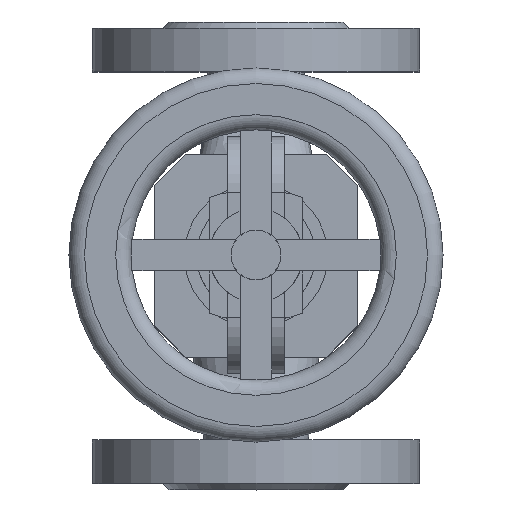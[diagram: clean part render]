
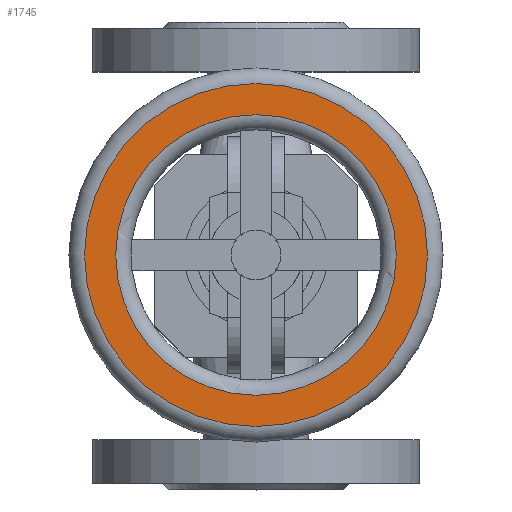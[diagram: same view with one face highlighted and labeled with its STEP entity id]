
A CAD part, top view. The second image highlights one B-rep face of the part: STEP entity #1745.
In plain terms, the highlighted planar face has unit normal (0, 0, 1).
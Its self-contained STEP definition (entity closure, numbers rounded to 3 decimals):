
#1745=ADVANCED_FACE('',(#11159,#11161),#11163,.T.);
#11159=FACE_BOUND('',#11160,.T.);
#11160=EDGE_LOOP('',(#12155));
#11161=FACE_BOUND('',#11162,.T.);
#11162=EDGE_LOOP('',(#12156));
#11163=PLANE('',#11164);
#11164=AXIS2_PLACEMENT_3D('',#11165,#11166,#11167);
#11165=CARTESIAN_POINT('',(0.,0.,189.));
#11166=DIRECTION('',(0.,0.,1.));
#11167=DIRECTION('',(0.,1.,0.));
#12155=ORIENTED_EDGE('',*,*,#12644,.F.);
#12156=ORIENTED_EDGE('',*,*,#12618,.T.);
#12618=EDGE_CURVE('',#13426,#13426,#13427,.T.);
#12644=EDGE_CURVE('',#13466,#13466,#13467,.T.);
#13426=VERTEX_POINT('',#19019);
#13427=CIRCLE('',#19020,45.);
#13466=VERTEX_POINT('',#19117);
#13467=CIRCLE('',#19118,55.);
#19019=CARTESIAN_POINT('',(0.,45.,189.));
#19020=AXIS2_PLACEMENT_3D('',#19021,#19022,#19023);
#19021=CARTESIAN_POINT('',(0.,0.,189.));
#19022=DIRECTION('',(0.,0.,-1.));
#19023=DIRECTION('',(0.,1.,0.));
#19117=CARTESIAN_POINT('',(0.,55.,189.));
#19118=AXIS2_PLACEMENT_3D('',#19119,#19120,#19121);
#19119=CARTESIAN_POINT('',(0.,0.,189.));
#19120=DIRECTION('',(0.,0.,-1.));
#19121=DIRECTION('',(0.,1.,0.));
